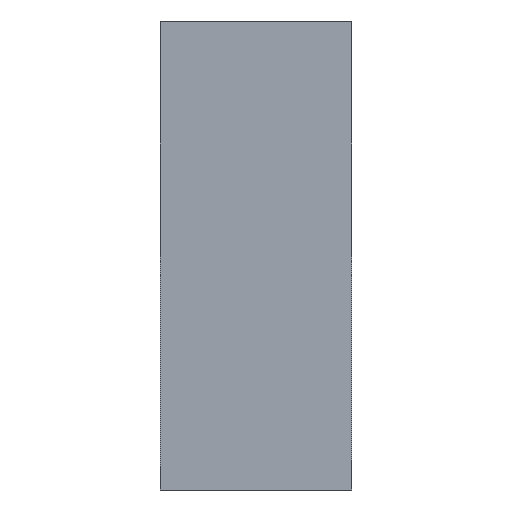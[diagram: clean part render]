
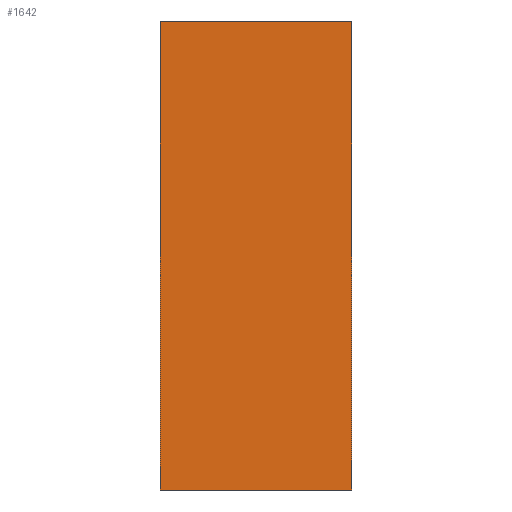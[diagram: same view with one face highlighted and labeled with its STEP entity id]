
A CAD part, left-side view. The second image highlights one B-rep face of the part: STEP entity #1642.
In plain terms, the highlighted planar face has unit normal (-1, 0, 0).
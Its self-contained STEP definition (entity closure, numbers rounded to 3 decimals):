
#57=CARTESIAN_POINT('Line Origine',(0.,0.,0.)) ;
#61=CARTESIAN_POINT('Vertex',(0.,0.,11.)) ;
#63=CARTESIAN_POINT('Vertex',(0.,0.,-11.)) ;
#1612=CARTESIAN_POINT('Axis2P3D Location',(0.,0.,-0.)) ;
#1617=CARTESIAN_POINT('Line Origine',(0.,9.,0.)) ;
#1621=CARTESIAN_POINT('Vertex',(0.,9.,-11.)) ;
#1623=CARTESIAN_POINT('Vertex',(0.,9.,11.)) ;
#1626=CARTESIAN_POINT('Line Origine',(0.,4.5,-11.)) ;
#1631=CARTESIAN_POINT('Line Origine',(0.,4.5,11.)) ;
#58=DIRECTION('Vector Direction',(0.,0.,-1.)) ;
#1613=DIRECTION('Axis2P3D Direction',(1.,0.,-0.)) ;
#1614=DIRECTION('Axis2P3D XDirection',(-0.,0.,-1.)) ;
#1618=DIRECTION('Vector Direction',(0.,0.,1.)) ;
#1627=DIRECTION('Vector Direction',(0.,1.,0.)) ;
#1632=DIRECTION('Vector Direction',(0.,-1.,0.)) ;
#1615=AXIS2_PLACEMENT_3D('Plane Axis2P3D',#1612,#1613,#1614) ;
#1637=ORIENTED_EDGE('',*,*,#1625,.F.) ;
#1638=ORIENTED_EDGE('',*,*,#1630,.F.) ;
#1639=ORIENTED_EDGE('',*,*,#65,.F.) ;
#1640=ORIENTED_EDGE('',*,*,#1635,.F.) ;
#59=VECTOR('Line Direction',#58,1.) ;
#1619=VECTOR('Line Direction',#1618,1.) ;
#1628=VECTOR('Line Direction',#1627,1.) ;
#1633=VECTOR('Line Direction',#1632,1.) ;
#1642=ADVANCED_FACE('CF-GP-09-500',(#1641),#1616,.F.) ;
#65=EDGE_CURVE('',#62,#64,#60,.T.) ;
#1625=EDGE_CURVE('',#1622,#1624,#1620,.T.) ;
#1630=EDGE_CURVE('',#64,#1622,#1629,.T.) ;
#1635=EDGE_CURVE('',#1624,#62,#1634,.T.) ;
#1636=EDGE_LOOP('',(#1637,#1638,#1639,#1640)) ;
#1641=FACE_OUTER_BOUND('',#1636,.T.) ;
#60=LINE('Line',#57,#59) ;
#1620=LINE('Line',#1617,#1619) ;
#1629=LINE('Line',#1626,#1628) ;
#1634=LINE('Line',#1631,#1633) ;
#1616=PLANE('Plane',#1615) ;
#62=VERTEX_POINT('',#61) ;
#64=VERTEX_POINT('',#63) ;
#1622=VERTEX_POINT('',#1621) ;
#1624=VERTEX_POINT('',#1623) ;
